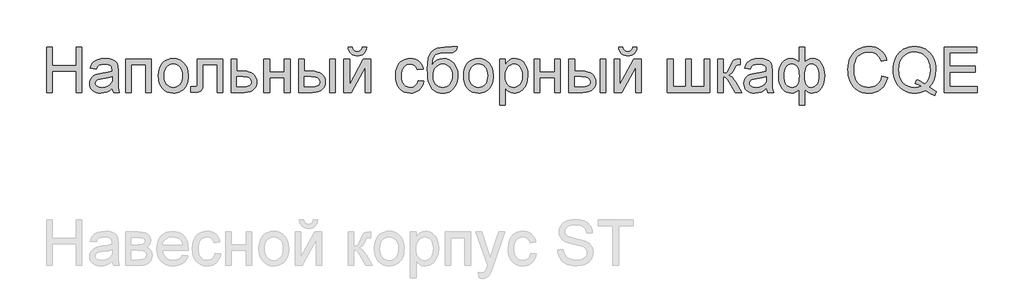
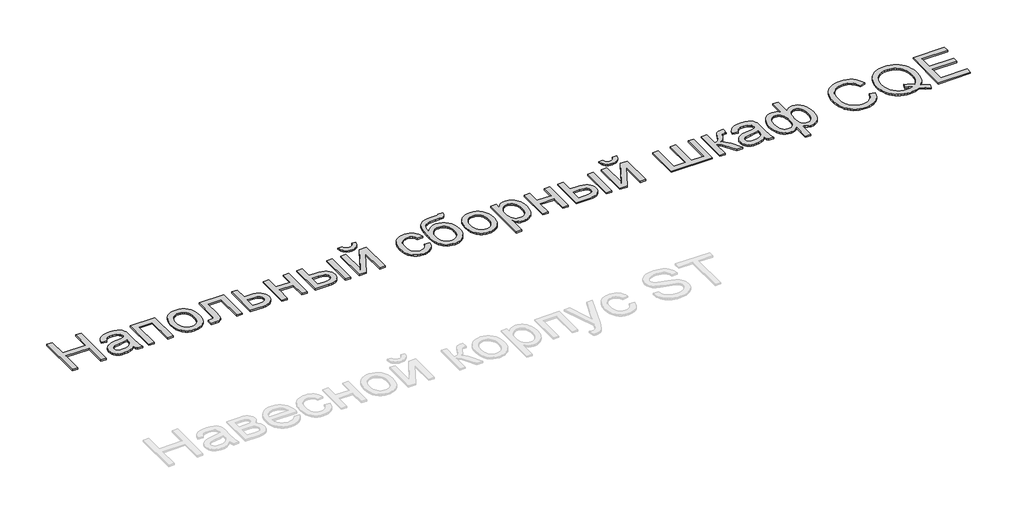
# One storey, part 6 of 6: 1 proxy.
"""IFC4 building model written with IfcOpenShell, lengths in millimetres."""

from ifc_helpers import new_model, si_unit, origin, origin_with_axes, place, context, project, spatial, polyline, outline, extrude, element, save

model = new_model("IFC4")

# Units and contexts
model_context = context("Model", 3, world=origin())
ifc_project = project(units=[si_unit("LENGTHUNIT", "METRE", prefix="MILLI")], contexts=[model_context])

# Site, building, storey
site = spatial("IfcSite", under=ifc_project)
building = spatial("IfcBuilding", under=site)
storey = spatial("IfcBuildingStorey", under=building, Name="Этаж 01", Elevation=0.0)

# Proxy
placement = place(None, origin())
element("IfcBuildingElementProxy", 1, Name="600 мм Arial", ObjectType="600 мм Arial", at=placement, inside=storey, context=model_context, shape_type="SweptSolid", body=[
    extrude(outline(polyline([(180.1086, -3256.8313226), (180.1086, -2654.0934617), (255.4508326, -2654.0934617), (255.4508326, -2898.9557177), (575.6553212, -2898.9557177), (575.6553212, -2654.0934617), (650.9975538, -2654.0934617), (650.9975538, -3256.8313226), (575.6553212, -3256.8313226), (575.6553212, -2974.2979503), (255.4508326, -2974.2979503), (255.4508326, -3256.8313226), (180.1086, -3256.8313226)])), origin_with_axes(), (0.0, 0.0, 1.0), 20.0),
    extrude(outline(polyline([(1055.9620541, -3200.3246482), (1019.9648008, -3231.1899476), (982.9006898, -3251.3866691), (943.9235924, -3262.5334936), (902.1873801, -3266.2491017), (868.6411407, -3264.0142186), (839.2243766, -3257.3095692), (813.937088, -3246.1351536), (792.7792747, -3230.4909718), (776.0728336, -3211.3703051), (764.1396614, -3189.7664349), (756.9797581, -3165.6793613), (754.5931236, -3139.1090842), (758.1983672, -3107.8759028), (769.0140978, -3079.512201), (785.6975463, -3055.2319893), (806.9059433, -3036.2492783), (831.8299485, -3021.9018805), (859.6602214, -3011.5276083), (924.848911, -3000.1968428), (1001.8834008, -2988.2774662), (1055.5205957, -2974.2979503), (1055.9620541, -2957.5225314), (1050.7749179, -2923.898117), (1044.2909978, -2911.4453115), (1035.2135095, -2901.8987737), (1019.5233425, -2892.37063), (1000.4118728, -2885.5648131), (951.9250258, -2880.1201596), (907.0434224, -2883.7437972), (875.6998764, -2894.6147102), (854.3259325, -2914.7194612), (839.3531353, -2946.0446131), (764.0109027, -2936.626834), (777.0891076, -2895.4240506), (796.6052475, -2863.050435), (824.3803381, -2838.2919767), (862.2353954, -2819.9346652), (908.5333445, -2808.5671115), (961.6371105, -2804.777927), (1012.5703727, -2808.1256531), (1052.9454217, -2818.1688316), (1083.3876568, -2833.2703875), (1104.5224774, -2851.793246), (1118.5387815, -2874.6939002), (1127.6254667, -2902.9288433), (1131.3042867, -2968.8532968), (1131.3042867, -3062.5896292), (1135.1302594, -3193.4820431), (1140.7956422, -3225.8372645), (1150.1398448, -3256.8313226), (1074.7976122, -3256.8313226), (1062.7310828, -3230.6381246), (1055.9620541, -3200.3246482)]), holes=[polyline([(1055.9620541, -3049.640183), (1005.3414915, -3062.184959), (934.4138429, -3072.7431723), (869.5930353, -3084.9568545), (852.7256458, -3093.3077758), (840.2360521, -3104.8224822), (832.5105302, -3118.6180571), (829.9353562, -3133.8115835), (835.5455567, -3156.215597), (852.3761579, -3174.5729085), (880.0592781, -3186.823379), (918.2270351, -3190.9068691), (958.6940545, -3186.4003147), (994.4521845, -3172.8806513), (1023.4412857, -3152.9598413), (1043.601219, -3129.2498467), (1052.5407515, -3104.8224822), (1055.5205957, -3070.9773387), (1055.9620541, -3049.640183)])]), origin_with_axes(), (0.0, 0.0, 1.0), 20.0),
    extrude(outline(polyline([(1234.8998565, -2814.195706), (1573.9399033, -2814.195706), (1573.9399033, -3256.8313226), (1498.5976707, -3256.8313226), (1498.5976707, -2889.5379387), (1310.2420891, -2889.5379387), (1310.2420891, -3256.8313226), (1234.8998565, -3256.8313226), (1234.8998565, -2814.195706)])), origin_with_axes(), (0.0, 0.0, 1.0), 20.0),
    extrude(outline(polyline([(1668.117694, -3035.5135143), (1672.1919871, -2978.1883024), (1684.4148664, -2928.7909475), (1704.7863319, -2887.3214496), (1733.3063836, -2853.7798087), (1762.0195733, -2832.3414855), (1793.7126072, -2817.0283974), (1828.3854852, -2807.8405446), (1866.0382075, -2804.777927), (1907.6042744, -2808.5073307), (1945.1880187, -2819.6955419), (1978.7894404, -2838.3425605), (2008.4085396, -2864.4483866), (2032.5829852, -2897.1301033), (2049.8504463, -2935.504794), (2060.210923, -2979.5724585), (2063.6644153, -3029.3330968), (2062.137705, -3069.6621605), (2057.5575741, -3105.4478816), (2049.9240227, -3136.6902601), (2039.2370508, -3163.3892959), (2025.6300155, -3186.4508984), (2009.2362741, -3206.7809772), (1990.0558266, -3224.3795321), (1968.0886729, -3239.2465633), (1944.1901388, -3251.0601738), (1919.2155499, -3259.4984671), (1893.1649061, -3264.5614431), (1866.0382075, -3266.2491017), (1823.8651352, -3262.5334936), (1785.931903, -3251.3866691), (1752.2385108, -3232.8086284), (1722.7849585, -3206.7993713), (1698.8680303, -3173.8003563), (1681.7845102, -3134.2530418), (1671.5343981, -3088.1574279), (1668.117694, -3035.5135143)]), holes=[polyline([(1743.4599267, -3035.3663615), (1745.6396275, -3071.9108392), (1752.1787299, -3103.5532894), (1763.0772341, -3130.2937119), (1778.3351398, -3152.1321068), (1796.8947865, -3169.0960653), (1817.6985133, -3181.2131785), (1840.7463203, -3188.4834465), (1866.0382075, -3190.9068691), (1891.2013359, -3188.4696509), (1914.1571724, -3181.1579962), (1934.9057169, -3168.9719051), (1953.4469695, -3151.9113776), (1968.7048753, -3129.856852), (1979.6033794, -3102.6887667), (1986.1424818, -3070.4071216), (1988.3221826, -3033.0119168), (1986.1286863, -2997.6262674), (1979.5481971, -2966.8115517), (1968.5807151, -2940.5677699), (1953.2262403, -2918.8949219), (1934.6160099, -2901.9309634), (1913.8812609, -2889.8138502), (1891.0219934, -2882.5435822), (1866.0382075, -2880.1201596), (1840.7463203, -2882.5343852), (1817.6985133, -2889.777062), (1796.8947865, -2901.8481899), (1778.3351398, -2918.7477691), (1763.0772341, -2940.5217847), (1752.1787299, -2967.2162219), (1745.6396275, -2998.8310809), (1743.4599267, -3035.3663615)])]), origin_with_axes(), (0.0, 0.0, 1.0), 20.0),
    extrude(outline(polyline([(2186.0955433, -2814.195706), (2525.13559, -2814.195706), (2525.13559, -3256.3898642), (2449.7933574, -3256.3898642), (2449.7933574, -2889.5379387), (2261.4377759, -2889.5379387), (2261.4377759, -3100.7022039), (2260.168583, -3161.9913443), (2256.3610043, -3198.1173562), (2246.8512548, -3220.1718818), (2228.4755491, -3239.2465633), (2200.5900939, -3252.4351328), (2162.5510956, -3256.8313226), (2101.3355316, -3253.0053499), (2101.3355316, -3181.48909), (2135.0335223, -3181.48909), (2155.4693672, -3180.3302617), (2169.0993951, -3176.8537769), (2177.6158633, -3170.8573004), (2182.7110289, -3162.1384971), (2186.0955433, -3096.4347727), (2186.0955433, -2814.195706)])), origin_with_axes(), (0.0, 0.0, 1.0), 20.0),
    extrude(outline(polyline([(2638.1489389, -2814.195706), (2713.4911715, -2814.195706), (2713.4911715, -2974.2979503), (2800.3113224, -2974.2979503), (2840.3920658, -2976.6569936), (2875.5799786, -2983.7341235), (2905.8750609, -2995.52934), (2931.2773127, -3012.0426431), (2951.3636696, -3032.7038156), (2965.7110674, -3056.9426406), (2974.3195061, -3084.7591179), (2977.1889857, -3116.1532477), (2974.7471689, -3144.1628631), (2967.4217187, -3170.0663541), (2955.212635, -3193.8637206), (2938.1199178, -3215.5549628), (2915.6561235, -3233.6133702), (2887.3338084, -3246.5122327), (2853.1529725, -3254.2515502), (2813.1136158, -3256.8313226), (2638.1489389, -3256.8313226), (2638.1489389, -2814.195706)]), holes=[polyline([(2713.4911715, -3181.48909), (2783.830209, -3181.48909), (2838.405503, -3177.5343586), (2858.8367493, -3172.5909443), (2874.6970618, -3165.6701642), (2886.5750517, -3156.6524568), (2895.0593303, -3145.4182604), (2900.1498974, -3131.967575), (2901.8467531, -3116.3004005), (2896.8251638, -3091.689095), (2881.7603961, -3069.9472691), (2868.6683956, -3061.0629189), (2849.4787511, -3054.7169545), (2792.8065297, -3049.640183), (2713.4911715, -3049.640183), (2713.4911715, -3181.48909)])]), origin_with_axes(), (0.0, 0.0, 1.0), 20.0),
    extrude(outline(polyline([(3071.3667764, -2814.195706), (3146.7090091, -2814.195706), (3146.7090091, -2983.7157294), (3344.4823697, -2983.7157294), (3344.4823697, -2814.195706), (3419.8246023, -2814.195706), (3419.8246023, -3256.8313226), (3344.4823697, -3256.8313226), (3344.4823697, -3059.057962), (3146.7090091, -3059.057962), (3146.7090091, -3256.8313226), (3071.3667764, -3256.8313226), (3071.3667764, -2814.195706)])), origin_with_axes(), (0.0, 0.0, 1.0), 20.0),
    extrude(outline(polyline([(3532.8379512, -2814.195706), (3608.1801838, -2814.195706), (3608.1801838, -2974.2979503), (3701.327905, -2974.2979503), (3744.190756, -2976.6569936), (3781.8388796, -2983.7341235), (3814.272276, -2995.52934), (3841.4909452, -3012.0426431), (3863.0258374, -3032.7038156), (3878.4079034, -3056.9426406), (3887.6371429, -3084.7591179), (3890.7135561, -3116.1532477), (3888.1337836, -3144.1628631), (3880.3944661, -3170.0663541), (3867.4956037, -3193.8637206), (3849.4371962, -3215.5549628), (3825.7134061, -3233.6133702), (3795.8183955, -3246.5122327), (3759.7521643, -3254.2515502), (3717.5147128, -3256.8313226), (3532.8379512, -3256.8313226), (3532.8379512, -2814.195706)]), holes=[polyline([(3608.1801838, -3181.48909), (3685.5825556, -3181.48909), (3745.584109, -3177.5343586), (3768.0525019, -3172.5909443), (3785.4993055, -3165.6701642), (3798.5683134, -3156.6524568), (3807.903319, -3145.4182604), (3813.5043224, -3131.967575), (3815.3713235, -3116.3004005), (3809.8346995, -3091.689095), (3793.2248274, -3069.9472691), (3778.8084517, -3061.0629189), (3757.7058208, -3054.7169545), (3695.4417931, -3049.640183), (3608.1801838, -3049.640183), (3608.1801838, -3181.48909)])]), origin_with_axes(), (0.0, 0.0, 1.0), 20.0),
    extrude(outline(polyline([(3947.2202306, -2814.195706), (4022.5624632, -2814.195706), (4022.5624632, -3256.8313226), (3947.2202306, -3256.8313226), (3947.2202306, -2814.195706)])), origin_with_axes(), (0.0, 0.0, 1.0), 20.0),
    extrude(outline(polyline([(4380.4380681, -2654.0934617), (4436.9447425, -2654.0934617), (4432.3968014, -2679.8038147), (4424.7862426, -2702.3411854), (4414.1130662, -2721.7055739), (4400.3772722, -2737.8969802), (4383.8547721, -2750.6762811), (4364.8214774, -2759.8043531), (4343.277388, -2765.2811963), (4319.2225041, -2767.1068107), (4293.0936854, -2765.2949918), (4269.7423757, -2759.8595354), (4249.1685752, -2750.8004412), (4231.3722836, -2738.1177094), (4216.6110186, -2721.995281), (4205.1422974, -2702.6170969), (4196.96612, -2679.9831572), (4192.0824866, -2654.0934617), (4248.589161, -2654.0934617), (4256.5354121, -2678.9071023), (4269.7791639, -2696.547044), (4288.3939929, -2707.0868632), (4312.4534754, -2710.6001362), (4339.6031666, -2707.1972277), (4359.2480652, -2696.9885024), (4372.491817, -2679.4589253), (4380.4380681, -2654.0934617)])), origin_with_axes(), (0.0, 0.0, 1.0), 20.0),
    extrude(outline(polyline([(4135.5758121, -2814.195706), (4210.9180447, -2814.195706), (4210.9180447, -3151.7642248), (4396.0362647, -2814.195706), (4493.451417, -2814.195706), (4493.451417, -3256.8313226), (4418.1091844, -3256.8313226), (4418.1091844, -2921.322943), (4234.1681868, -3256.8313226), (4135.5758121, -3256.8313226), (4135.5758121, -2814.195706)])), origin_with_axes(), (0.0, 0.0, 1.0), 20.0),
    extrude(outline(polyline([(5124.4426151, -3096.7290783), (5199.7848477, -3106.1468574), (5191.5902763, -3141.6980537), (5178.7787858, -3173.1565628), (5161.3503763, -3200.5223848), (5139.3050477, -3223.7955195), (5113.5717022, -3242.3689617), (5085.0792416, -3255.6357062), (5053.8276662, -3263.5957528), (5019.8169757, -3266.2491017), (4977.56113, -3262.5472891), (4939.6738831, -3251.4418514), (4906.1552348, -3232.9327885), (4877.0051852, -3207.0201005), (4853.4101537, -3174.191231), (4836.5565598, -3134.9336235), (4826.4444035, -3089.2472783), (4823.0736847, -3037.1321951), (4828.8310379, -2970.0857015), (4836.0277294, -2939.9147794), (4846.1030976, -2911.9787404), (4859.1261202, -2886.8386045), (4875.1657752, -2865.0553919), (4894.2220625, -2846.6291024), (4916.2949823, -2831.5597362), (4940.3866544, -2819.8426947), (4965.4991991, -2811.4733793), (4991.6326163, -2806.45179), (5018.7869061, -2804.777927), (5052.2135839, -2807.0771894), (5082.4488854, -2813.9749768), (5109.4928106, -2825.4712892), (5133.3453594, -2841.5661265), (5153.6018618, -2861.8916067), (5169.8576474, -2886.0798479), (5182.1127164, -2914.13085), (5190.3670687, -2946.0446131), (5115.0248361, -2955.4623922), (5101.3580199, -2922.5921359), (5080.0760465, -2899.0292941), (5052.3561382, -2884.8474432), (5019.3755173, -2880.1201596), (4993.775529, -2882.4470132), (4970.6863352, -2889.4275741), (4950.1079361, -2901.0618422), (4932.0403317, -2917.3498175), (4917.3296504, -2938.6685791), (4906.8220209, -2965.3952061), (4900.5174432, -2997.5296983), (4898.4159173, -3035.072056), (4900.4714579, -3073.1800321), (4906.6380799, -3105.6870049), (4916.9157831, -3132.5929743), (4931.3045677, -3153.8979404), (4949.0134872, -3170.0893467), (4969.2515955, -3181.6546369), (4992.0188924, -3188.5938111), (5017.3153781, -3190.9068691), (5056.3292637, -3185.1311218), (5073.2012517, -3177.9114376), (5088.3166032, -3167.8038798), (5101.2522539, -3154.6980837), (5111.5851394, -3138.4836848), (5119.3152598, -3119.160683), (5124.4426151, -3096.7290783)])), origin_with_axes(), (0.0, 0.0, 1.0), 20.0),
    extrude(outline(polyline([(5576.4960108, -2644.6756827), (5642.4204643, -2644.6756827), (5635.2835536, -2680.4889949), (5622.996295, -2703.4632255), (5605.9633586, -2717.0564652), (5584.5894147, -2724.7268048), (5549.7509898, -2728.258472), (5492.3246103, -2729.4356944), (5415.7131848, -2733.7767019), (5388.2645894, -2739.2029613), (5368.0540723, -2746.7997245), (5352.6306197, -2756.7877207), (5339.5432177, -2769.387679), (5328.7918664, -2784.5995995), (5320.3765658, -2802.4234822), (5309.1009826, -2846.1646514), (5304.2633344, -2900.8687041), (5334.5584167, -2858.7830039), (5369.5256003, -2828.7638331), (5388.7704272, -2818.2699991), (5409.2016735, -2810.7744035), (5453.6234244, -2804.777927), (5494.669858, -2808.5901041), (5532.0190776, -2820.0266357), (5565.6710831, -2839.0875215), (5595.6258746, -2865.7727618), (5620.2187859, -2898.9603163), (5637.7851512, -2937.5281449), (5648.3249704, -2981.4762478), (5651.8382434, -3030.8046248), (5650.0954025, -3068.5401205), (5644.8668796, -3102.7255549), (5636.1526748, -3133.360928), (5623.9527882, -3160.4462399), (5593.4737649, -3205.3094492), (5557.8076054, -3238.6579521), (5536.9486963, -3250.72908), (5512.6316964, -3259.3513143), (5484.8566058, -3264.5246549), (5453.6234244, -3266.2491017), (5417.492814, -3264.0280142), (5385.6204376, -3257.3647515), (5358.0062953, -3246.2593138), (5334.6503872, -3230.711701), (5314.6605993, -3211.7013989), (5297.1448178, -3190.2078933), (5282.1030427, -3166.2311843), (5269.535274, -3139.7712718), (5259.6208543, -3106.9332052), (5252.5391259, -3063.8220339), (5248.2900888, -3010.4377578), (5246.8737431, -2946.7803771), (5250.446797, -2867.4512234), (5261.1659586, -2802.2211471), (5279.031228, -2751.0901483), (5290.6436531, -2730.8118029), (5304.0426052, -2714.058227), (5336.4668045, -2687.8236422), (5376.5705405, -2669.084653), (5424.3538132, -2657.8412596), (5479.8166225, -2654.0934617), (5563.6937174, -2652.4012046), (5571.8974859, -2649.6236955), (5576.4960108, -2644.6756827)]), holes=[polyline([(5576.4960108, -3028.45018), (5574.4542657, -2997.3319618), (5568.3290305, -2969.1659965), (5558.1203051, -2943.9522843), (5543.8280896, -2921.690825), (5525.820266, -2903.5036589), (5504.4647161, -2890.5128259), (5479.7614402, -2882.7183262), (5451.710438, -2880.1201596), (5422.4362283, -2882.865479), (5396.7120798, -2891.1014371), (5374.5379925, -2904.8280341), (5355.9139665, -2924.0452698), (5341.1710955, -2947.8518334), (5330.6404734, -2975.346414), (5324.3221002, -3006.5290116), (5322.2159757, -3041.3996263), (5324.5428294, -3075.5436739), (5331.5233902, -3105.4294875), (5343.1576583, -3131.057067), (5359.4456337, -3152.4264124), (5379.1457145, -3169.2616122), (5401.0162991, -3181.2867549), (5425.0573875, -3188.5018406), (5451.2689796, -3190.9068691), (5477.8392567, -3188.1247615), (5501.7791776, -3179.7784388), (5523.0887422, -3165.8679008), (5541.7679505, -3146.3931477), (5556.9614769, -3122.3290667), (5567.8139957, -3094.6505451), (5574.325507, -3063.3575829), (5576.4960108, -3028.45018)])]), origin_with_axes(), (0.0, 0.0, 1.0), 20.0),
    extrude(outline(polyline([(5727.180476, -3035.5135143), (5731.2547691, -2978.1883024), (5743.4776484, -2928.7909475), (5763.8491139, -2887.3214496), (5792.3691656, -2853.7798087), (5821.0823553, -2832.3414855), (5852.7753892, -2817.0283974), (5887.4482672, -2807.8405446), (5925.1009894, -2804.777927), (5966.6670564, -2808.5073307), (6004.2508007, -2819.6955419), (6037.8522224, -2838.3425605), (6067.4713216, -2864.4483866), (6091.6457672, -2897.1301033), (6108.9132283, -2935.504794), (6119.273705, -2979.5724585), (6122.7271972, -3029.3330968), (6121.200487, -3069.6621605), (6116.6203561, -3105.4478816), (6108.9868047, -3136.6902601), (6098.2998328, -3163.3892959), (6084.6927975, -3186.4508984), (6068.2990561, -3206.7809772), (6049.1186085, -3224.3795321), (6027.1514549, -3239.2465633), (6003.2529208, -3251.0601738), (5978.2783318, -3259.4984671), (5952.2276881, -3264.5614431), (5925.1009894, -3266.2491017), (5882.9279172, -3262.5334936), (5844.994685, -3251.3866691), (5811.3012928, -3232.8086284), (5781.8477405, -3206.7993713), (5757.9308123, -3173.8003563), (5740.8472921, -3134.2530418), (5730.5971801, -3088.1574279), (5727.180476, -3035.5135143)]), holes=[polyline([(5802.5227086, -3035.3663615), (5804.7024095, -3071.9108392), (5811.2415119, -3103.5532894), (5822.140016, -3130.2937119), (5837.3979218, -3152.1321068), (5855.9575684, -3169.0960653), (5876.7612953, -3181.2131785), (5899.8091023, -3188.4834465), (5925.1009894, -3190.9068691), (5950.2641179, -3188.4696509), (5973.2199544, -3181.1579962), (5993.9684989, -3168.9719051), (6012.5097515, -3151.9113776), (6027.7676572, -3129.856852), (6038.6661613, -3102.6887667), (6045.2052638, -3070.4071216), (6047.3849646, -3033.0119168), (6045.1914682, -2997.6262674), (6038.610979, -2966.8115517), (6027.6434971, -2940.5677699), (6012.2890223, -2918.8949219), (5993.6787919, -2901.9309634), (5972.9440429, -2889.8138502), (5950.0847754, -2882.5435822), (5925.1009894, -2880.1201596), (5899.8091023, -2882.5343852), (5876.7612953, -2889.777062), (5855.9575684, -2901.8481899), (5837.3979218, -2918.7477691), (5822.140016, -2940.5217847), (5811.2415119, -2967.2162219), (5804.7024095, -2998.8310809), (5802.5227086, -3035.3663615)])]), origin_with_axes(), (0.0, 0.0, 1.0), 20.0),
    extrude(outline(polyline([(6207.4872089, -3426.351346), (6207.4872089, -2814.195706), (6282.8294415, -2814.195706), (6282.8294415, -2888.0664107), (6307.4039588, -2851.6276991), (6334.9215321, -2825.6000479), (6367.000842, -2809.9834572), (6405.2605695, -2804.777927), (6431.536541, -2806.5989428), (6456.2122259, -2812.0619905), (6479.287624, -2821.1670699), (6500.7627355, -2833.914181), (6520.1685107, -2849.9722301), (6537.0359002, -2869.0101233), (6551.3649039, -2891.0278607), (6563.1555219, -2916.0254423), (6578.9376595, -2971.5388354), (6584.198372, -3032.129), (6578.2570778, -3096.5635314), (6570.83046, -3126.2286158), (6560.4331951, -3154.192246), (6547.2078374, -3179.7232565), (6531.2969411, -3202.0904818), (6512.7005062, -3221.2939219), (6491.4185328, -3237.3335769), (6468.494886, -3249.984119), (6444.9734309, -3259.0202205), (6420.8541676, -3264.4418814), (6396.1370961, -3266.2491017), (6361.5010062, -3261.4114535), (6330.5805245, -3246.8985088), (6304.111415, -3224.991136), (6282.8294415, -3197.9702034), (6282.8294415, -3426.351346), (6207.4872089, -3426.351346)]), holes=[polyline([(6282.8294415, -3039.0451815), (6284.8665881, -3075.3551344), (6290.9780277, -3106.5883158), (6301.1637605, -3132.7447257), (6315.4237863, -3153.824364), (6332.5900799, -3170.04796), (6351.4946159, -3181.6362428), (6372.1373944, -3188.5892125), (6394.5184153, -3190.9068691), (6417.2213329, -3188.5064391), (6438.2411904, -3181.305149), (6457.5779878, -3169.3029989), (6475.231725, -3152.4999888), (6489.9424063, -3130.6569953), (6500.4500358, -3103.5348953), (6506.7546135, -3071.1336885), (6508.8561394, -3033.4533752), (6506.8051973, -2997.4561219), (6500.6523709, -2966.2781229), (6490.3976603, -2939.9193779), (6476.0410654, -2918.3798871), (6458.8333851, -2901.6412563), (6440.0254181, -2889.6850915), (6419.6171644, -2882.5113926), (6397.608624, -2880.1201596), (6375.6690616, -2882.6631439), (6355.0262831, -2890.2920967), (6335.6802887, -2903.0070182), (6317.6310783, -2920.8079082), (6302.4053622, -2943.4556436), (6291.5298507, -2970.7111009), (6285.0045438, -3002.5742802), (6282.8294415, -3039.0451815)])]), origin_with_axes(), (0.0, 0.0, 1.0), 20.0),
    extrude(outline(polyline([(6668.9583837, -2814.195706), (6744.3006163, -2814.195706), (6744.3006163, -2983.7157294), (6942.0739769, -2983.7157294), (6942.0739769, -2814.195706), (7017.4162095, -2814.195706), (7017.4162095, -3256.8313226), (6942.0739769, -3256.8313226), (6942.0739769, -3059.057962), (6744.3006163, -3059.057962), (6744.3006163, -3256.8313226), (6668.9583837, -3256.8313226), (6668.9583837, -2814.195706)])), origin_with_axes(), (0.0, 0.0, 1.0), 20.0),
    extrude(outline(polyline([(7130.4295584, -2814.195706), (7205.771791, -2814.195706), (7205.771791, -2974.2979503), (7298.9195122, -2974.2979503), (7341.7823632, -2976.6569936), (7379.4304869, -2983.7341235), (7411.8638833, -2995.52934), (7439.0825524, -3012.0426431), (7460.6174447, -3032.7038156), (7475.9995106, -3056.9426406), (7485.2287502, -3084.7591179), (7488.3051633, -3116.1532477), (7485.7253908, -3144.1628631), (7477.9860734, -3170.0663541), (7465.0872109, -3193.8637206), (7447.0288035, -3215.5549628), (7423.3050133, -3233.6133702), (7393.4100027, -3246.5122327), (7357.3437716, -3254.2515502), (7315.10632, -3256.8313226), (7130.4295584, -3256.8313226), (7130.4295584, -2814.195706)]), holes=[polyline([(7205.771791, -3181.48909), (7283.1741628, -3181.48909), (7343.1757162, -3177.5343586), (7365.6441091, -3172.5909443), (7383.0909127, -3165.6701642), (7396.1599206, -3156.6524568), (7405.4949262, -3145.4182604), (7411.0959296, -3131.967575), (7412.9629307, -3116.3004005), (7407.4263067, -3091.689095), (7390.8164346, -3069.9472691), (7376.4000589, -3061.0629189), (7355.297428, -3054.7169545), (7293.0334003, -3049.640183), (7205.771791, -3049.640183), (7205.771791, -3181.48909)])]), origin_with_axes(), (0.0, 0.0, 1.0), 20.0),
    extrude(outline(polyline([(7544.8118378, -2814.195706), (7620.1540704, -2814.195706), (7620.1540704, -3256.8313226), (7544.8118378, -3256.8313226), (7544.8118378, -2814.195706)])), origin_with_axes(), (0.0, 0.0, 1.0), 20.0),
    extrude(outline(polyline([(7978.0296753, -2654.0934617), (8034.5363498, -2654.0934617), (8029.9884086, -2679.8038147), (8022.3778498, -2702.3411854), (8011.7046735, -2721.7055739), (7997.9688795, -2737.8969802), (7981.4463793, -2750.6762811), (7962.4130846, -2759.8043531), (7940.8689953, -2765.2811963), (7916.8141113, -2767.1068107), (7890.6852926, -2765.2949918), (7867.333983, -2759.8595354), (7846.7601824, -2750.8004412), (7828.9638909, -2738.1177094), (7814.2026258, -2721.995281), (7802.7339046, -2702.6170969), (7794.5577273, -2679.9831572), (7789.6740938, -2654.0934617), (7846.1807682, -2654.0934617), (7854.1270193, -2678.9071023), (7867.3707712, -2696.547044), (7885.9856001, -2707.0868632), (7910.0450826, -2710.6001362), (7937.1947739, -2707.1972277), (7956.8396724, -2696.9885024), (7970.0834242, -2679.4589253), (7978.0296753, -2654.0934617)])), origin_with_axes(), (0.0, 0.0, 1.0), 20.0),
    extrude(outline(polyline([(7733.1674193, -2814.195706), (7808.5096519, -2814.195706), (7808.5096519, -3151.7642248), (7993.6278719, -2814.195706), (8091.0430242, -2814.195706), (8091.0430242, -3256.8313226), (8015.7007916, -3256.8313226), (8015.7007916, -2921.322943), (7831.759794, -3256.8313226), (7733.1674193, -3256.8313226), (7733.1674193, -2814.195706)])), origin_with_axes(), (0.0, 0.0, 1.0), 20.0),
    extrude(outline(polyline([(8439.5008501, -2814.195706), (8514.8430827, -2814.195706), (8514.8430827, -3181.48909), (8684.3631061, -3181.48909), (8684.3631061, -2814.195706), (8759.7053387, -2814.195706), (8759.7053387, -3181.48909), (8929.225362, -3181.48909), (8929.225362, -2814.195706), (9004.5675947, -2814.195706), (9004.5675947, -3256.8313226), (8439.5008501, -3256.8313226), (8439.5008501, -2814.195706)])), origin_with_axes(), (0.0, 0.0, 1.0), 20.0),
    extrude(outline(polyline([(9108.1631645, -2814.195706), (9183.5053971, -2814.195706), (9183.5053971, -3002.5512876), (9214.1499673, -2999.1667732), (9233.9788069, -2989.0132302), (9251.526778, -2962.5257265), (9275.3287431, -2910.1393304), (9294.5137892, -2867.299472), (9309.6889215, -2842.0811613), (9323.8523783, -2828.3407688), (9340.0023979, -2819.9346652), (9362.3512291, -2815.6304458), (9395.1111207, -2814.195706), (9409.532095, -2814.195706), (9409.532095, -2889.9793971), (9389.2250088, -2889.5379387), (9365.6805611, -2891.5245014), (9352.4368093, -2897.4841898), (9341.694655, -2914.0756677), (9326.5379168, -2947.0746827), (9310.6270205, -2980.12888), (9296.150864, -3000.7118776), (9278.621287, -3014.4522701), (9253.550129, -3026.9786521), (9277.4256705, -3037.5828506), (9301.0804828, -3056.2988471), (9324.5145659, -3083.1266416), (9347.7279198, -3118.0662341), (9428.3676531, -3256.8313226), (9342.7247246, -3256.8313226), (9263.7036721, -3121.00929), (9242.3665163, -3084.864884), (9223.9724166, -3063.5461224), (9205.3943758, -3053.1166678), (9183.5053971, -3049.640183), (9183.5053971, -3256.8313226), (9108.1631645, -3256.8313226), (9108.1631645, -2814.195706)])), origin_with_axes(), (0.0, 0.0, 1.0), 20.0),
    extrude(outline(polyline([(9757.9899208, -3200.3246482), (9721.9926676, -3231.1899476), (9684.9285565, -3251.3866691), (9645.9514592, -3262.5334936), (9604.2152468, -3266.2491017), (9570.6690074, -3264.0142186), (9541.2522433, -3257.3095692), (9515.9649547, -3246.1351536), (9494.8071414, -3230.4909718), (9478.1007003, -3211.3703051), (9466.1675281, -3189.7664349), (9459.0076248, -3165.6793613), (9456.6209903, -3139.1090842), (9460.2262339, -3107.8759028), (9471.0419645, -3079.512201), (9487.725413, -3055.2319893), (9508.93381, -3036.2492783), (9533.8578152, -3021.9018805), (9561.6880882, -3011.5276083), (9626.8767777, -3000.1968428), (9703.9112675, -2988.2774662), (9757.5484624, -2974.2979503), (9757.9899208, -2957.5225314), (9752.8027847, -2923.898117), (9746.3188645, -2911.4453115), (9737.2413763, -2901.8987737), (9721.5512092, -2892.37063), (9702.4397395, -2885.5648131), (9653.9528925, -2880.1201596), (9609.0712891, -2883.7437972), (9577.7277431, -2894.6147102), (9556.3537992, -2914.7194612), (9541.381002, -2946.0446131), (9466.0387694, -2936.626834), (9479.1169743, -2895.4240506), (9498.6331142, -2863.050435), (9526.4082048, -2838.2919767), (9564.2632621, -2819.9346652), (9610.5612112, -2808.5671115), (9663.6649772, -2804.777927), (9714.5982395, -2808.1256531), (9754.9732884, -2818.1688316), (9785.4155235, -2833.2703875), (9806.5503441, -2851.793246), (9820.5666482, -2874.6939002), (9829.6533334, -2902.9288433), (9833.3321534, -2968.8532968), (9833.3321534, -3062.5896292), (9837.1581261, -3193.4820431), (9842.8235089, -3225.8372645), (9852.1677115, -3256.8313226), (9776.8254789, -3256.8313226), (9764.7589495, -3230.6381246), (9757.9899208, -3200.3246482)]), holes=[polyline([(9757.9899208, -3049.640183), (9707.3693582, -3062.184959), (9636.4417096, -3072.7431723), (9571.620902, -3084.9568545), (9554.7535125, -3093.3077758), (9542.2639188, -3104.8224822), (9534.5383969, -3118.6180571), (9531.9632229, -3133.8115835), (9537.5734234, -3156.215597), (9554.4040247, -3174.5729085), (9582.0871448, -3186.823379), (9620.2549018, -3190.9068691), (9660.7219213, -3186.4003147), (9696.4800512, -3172.8806513), (9725.4691524, -3152.9598413), (9745.6290857, -3129.2498467), (9754.5686182, -3104.8224822), (9757.5484624, -3070.9773387), (9757.9899208, -3049.640183)])]), origin_with_axes(), (0.0, 0.0, 1.0), 20.0),
    extrude(outline(polyline([(10191.2077583, -2654.0934617), (10266.5499909, -2654.0934617), (10266.5499909, -2856.7228647), (10289.4138569, -2833.8589987), (10314.4482267, -2817.6537968), (10341.5427356, -2807.9968944), (10370.5870192, -2804.777927), (10405.4668308, -2808.8706142), (10436.5298668, -2821.1486758), (10463.7761271, -2841.6121117), (10487.2056116, -2870.2609221), (10506.0365712, -2905.1177412), (10519.4872567, -2944.2052031), (10527.557668, -2987.5233081), (10530.2478051, -3035.072056), (10527.3507343, -3084.3820389), (10518.6595222, -3128.7164178), (10504.1741686, -3168.0751928), (10483.8946737, -3202.4583638), (10459.3109593, -3230.3668116), (10431.9129477, -3250.3014172), (10401.7006389, -3262.2621806), (10368.6740328, -3266.2491017), (10345.8285609, -3264.4096917), (10322.615207, -3258.8914618), (10296.9002555, -3245.1694634), (10266.5499909, -3218.7187479), (10266.5499909, -3426.351346), (10191.2077583, -3426.351346), (10191.2077583, -3218.7187479), (10168.28871, -3239.4672925), (10143.0887933, -3254.3297251), (10115.6815847, -3263.2692576), (10086.1406605, -3266.2491017), (10053.5095275, -3262.4415231), (10023.0121101, -3251.0187871), (9994.6484083, -3231.9808939), (9968.418422, -3205.3278433), (9946.4006846, -3171.5838673), (9930.6737293, -3131.2731977), (9921.2375561, -3084.3958345), (9918.0921651, -3030.9517776), (9920.938652, -2984.8469666), (9929.4781128, -2942.6233106), (9943.7105475, -2904.2808096), (9963.6359561, -2869.8194637), (9988.3714217, -2841.3637914), (10017.0340277, -2821.0383112), (10049.6237739, -2808.843023), (10086.1406605, -2804.777927), (10116.840413, -2807.9968944), (10144.4867449, -2817.6537968), (10169.2268091, -2833.8589987), (10191.2077583, -2856.7228647), (10191.2077583, -2654.0934617)]), holes=[polyline([(10266.1085325, -3036.8378895), (10267.6766295, -3078.7166562), (10272.3809205, -3113.1182212), (10280.2214056, -3140.0425847), (10291.1980846, -3159.4897467), (10304.5384054, -3173.2347378), (10319.4698159, -3183.0525885), (10335.992316, -3188.943299), (10354.1059058, -3190.9068691), (10374.2336494, -3188.4926435), (10392.8254858, -3181.2499667), (10409.8814148, -3169.1788388), (10425.4014364, -3152.2792596), (10438.3094959, -3130.2937119), (10447.5295384, -3102.9646782), (10453.0615639, -3070.2921585), (10454.9055724, -3032.2761528), (10453.2041182, -2996.3156878), (10448.0997555, -2965.2480533), (10439.5924844, -2939.0732493), (10427.6823048, -2917.7912759), (10413.1049807, -2901.3101625), (10396.5962762, -2889.5379387), (10378.1561912, -2882.4746044), (10357.7847257, -2880.1201596), (10336.3877892, -2882.5711734), (10317.8143469, -2889.9242148), (10302.064399, -2902.1792837), (10289.1379454, -2919.3363803), (10279.0625773, -2941.3863074), (10271.8658857, -2968.3198679), (10267.5478708, -3000.137062), (10266.1085325, -3036.8378895)]), polyline([(9993.4343977, -3029.3330968), (9995.3197929, -3069.2942786), (10000.9759786, -3103.2405897), (10010.4029547, -3131.1720301), (10023.6007213, -3153.0886), (10039.594391, -3169.6340927), (10057.4090767, -3181.4523018), (10077.0447781, -3188.5432273), (10098.5014955, -3190.9068691), (10120.4226639, -3188.5570229), (10139.3915793, -3181.5074841), (10155.4082416, -3169.7582529), (10168.472651, -3153.3093292), (10178.6123985, -3132.160713), (10185.8550753, -3106.3124043), (10190.2006813, -3075.7644031), (10191.6492167, -3040.5167095), (10190.1271049, -3002.9237681), (10185.5607697, -2970.3432189), (10177.9502109, -2942.7750619), (10167.2954286, -2920.2192971), (10153.5688317, -2902.6759244), (10136.7428289, -2890.144944), (10116.8174204, -2882.6263557), (10093.792606, -2880.1201596), (10072.6026031, -2882.5665748), (10053.4727393, -2889.9058207), (10036.4030147, -2902.137897), (10021.3934293, -2919.2628039), (10009.161353, -2940.8206888), (10000.4241556, -2966.3516993), (9995.1818372, -2995.8558353), (9993.4343977, -3029.3330968)])]), origin_with_axes(), (0.0, 0.0, 1.0), 20.0),
    extrude(outline(polyline([(11293.0879103, -3042.5768487), (11368.4301429, -3062.001018), (11353.521725, -3108.8553886), (11333.6652943, -3149.7960561), (11308.8608508, -3184.8230206), (11279.1083944, -3213.936282), (11245.0793099, -3236.8231406), (11207.4449818, -3253.1708968), (11166.2054101, -3262.9795505), (11121.3605949, -3266.2491017), (11075.4167322, -3263.7750953), (11033.970227, -3256.353076), (10997.0210791, -3243.983044), (10964.5692886, -3226.664999), (10936.1687985, -3204.6564587), (10911.3735521, -3178.2149403), (10890.1835491, -3147.3404438), (10872.5987898, -3112.0329693), (10858.7894194, -3073.8192271), (10848.9255834, -3034.2259274), (10843.0072818, -2993.2530701), (10841.0345146, -2950.9006555), (10843.2647992, -2905.458032), (10849.955653, -2863.0136468), (10861.1070759, -2823.5674999), (10876.7190681, -2787.1195912), (10896.4421416, -2754.2723276), (10919.9268084, -2725.6281157), (10947.1730687, -2701.1869557), (10978.1809224, -2680.9488474), (11011.8973072, -2665.0793378), (11047.2691611, -2653.7439738), (11084.2964839, -2646.9427555), (11122.9792757, -2644.6756827), (11166.0720529, -2647.6095416), (11205.5871777, -2656.4111183), (11241.5246501, -2671.0804129), (11273.8844701, -2691.6174253), (11302.1332088, -2717.4795295), (11325.7374373, -2748.1240997), (11344.6971557, -2783.5511358), (11359.0123638, -2823.7606379), (11283.6701312, -2841.7132793), (11271.8059368, -2812.0849831), (11257.5505095, -2786.7701033), (11240.9038492, -2765.7686399), (11221.865956, -2749.0805929), (11200.3264652, -2736.3656714), (11176.1750122, -2727.2835847), (11149.411597, -2721.8343326), (11120.0362197, -2720.0179153), (11086.2370614, -2722.0320692), (11055.3257768, -2728.074531), (11027.3023658, -2738.1453006), (11002.1668285, -2752.2443781), (10980.236463, -2769.7371669), (10961.8285677, -2789.9890708), (10946.9431425, -2813.0000896), (10935.5801873, -2838.7702233), (10921.1776072, -2893.9157344), (10916.3767472, -2950.7535027), (10922.060524, -3020.3567761), (10929.1652451, -3051.6267457), (10939.1118545, -3080.5422706), (10952.0613007, -3106.528535), (10968.1745321, -3129.0107234), (10987.4515487, -3147.9888358), (11009.8923504, -3163.4628723), (11034.4070868, -3175.4696209), (11059.9059076, -3184.0458699), (11086.3888127, -3189.1916193), (11113.8558022, -3190.9068691), (11146.6110954, -3188.5708184), (11176.7452293, -3181.5626664), (11204.258204, -3169.8824131), (11229.1500195, -3153.5300584), (11250.8320646, -3132.5791788), (11268.7157281, -3107.1033506), (11282.80101, -3077.1025739), (11293.0879103, -3042.5768487)])), origin_with_axes(), (0.0, 0.0, 1.0), 20.0),
    extrude(outline(polyline([(11924.8148724, -3184.5792988), (11973.4856603, -3221.7721685), (12018.2568991, -3247.4135436), (11997.949813, -3302.5958428), (11935.814544, -3273.7906826), (11873.9000042, -3232.1096526), (11839.9169049, -3247.0456616), (11804.1863662, -3257.7142394), (11766.7083879, -3264.1153861), (11727.4829702, -3266.2491017), (11688.0184291, -3263.7888909), (11650.4116922, -3256.4082583), (11614.6627593, -3244.1072041), (11580.7716305, -3226.8857282), (11549.7085945, -3205.2082817), (11522.4439401, -3179.5393155), (11498.9776674, -3149.8788296), (11479.3097762, -3116.2268241), (11463.7621634, -3079.4524201), (11452.6567257, -3040.424739), (11445.993463, -2999.1437806), (11443.7723755, -2955.609545), (11445.9888645, -2912.1672799), (11452.6383316, -2870.7207746), (11463.7207767, -2831.2700291), (11479.2361998, -2793.8150435), (11498.8443102, -2759.5330401), (11522.2048169, -2729.6012413), (11549.3177199, -2704.019647), (11580.1830193, -2682.7882574), (11613.8994041, -2666.1140059), (11649.5655636, -2654.2038263), (11687.1814976, -2647.0577186), (11726.7472062, -2644.6756827), (11766.6486071, -2647.1129009), (11804.5358541, -2654.4245555), (11840.4089471, -2666.6106466), (11874.2678862, -2683.6711742), (11905.1653753, -2705.1186945), (11932.1541182, -2730.4657639), (11955.2341148, -2759.7123826), (11974.4053653, -2792.8585503), (11989.470133, -2829.0765328), (12000.2306814, -2867.5385953), (12006.6870104, -2908.2447381), (12008.8391201, -2951.194961), (12003.6151957, -3020.7614463), (11987.9434227, -3082.8967153), (11976.1620019, -3111.1592496), (11961.7134365, -3137.5271916), (11944.5977267, -3162.0005413), (11924.8148724, -3184.5792988)]), holes=[polyline([(11748.2315147, -3084.3682433), (11781.4328648, -3095.1747769), (11811.5807943, -3108.3173612), (11838.6753032, -3123.7959961), (11862.7163916, -3141.6106818), (11893.6828585, -3106.6618922), (11915.8017635, -3063.9140044), (11929.0731065, -3013.3670182), (11933.4968875, -2955.0209338), (11931.933389, -2920.7481274), (11927.2428935, -2888.7102042), (11919.4254011, -2858.907164), (11908.4809118, -2831.339007), (11894.5243886, -2806.3690166), (11877.6707947, -2784.3604762), (11857.9201301, -2765.3133859), (11835.2723947, -2749.2277457), (11810.4449586, -2736.4484449), (11784.1551915, -2727.3203729), (11756.4030935, -2721.8435297), (11727.1886646, -2720.0179153), (11684.2200475, -2723.7105308), (11645.0774032, -2734.7883774), (11609.7607317, -2753.251455), (11578.2700329, -2779.0997637), (11552.3895346, -2812.2781211), (11533.9034643, -2852.731345), (11522.8118221, -2900.4594354), (11519.1146081, -2955.4623922), (11522.7704354, -3009.0306092), (11533.7379174, -3055.9861474), (11552.017054, -3096.3290067), (11577.6078453, -3130.0591871), (11608.8824134, -3156.680048), (11644.2128806, -3175.6949486), (11683.5992467, -3187.103889), (11727.0415118, -3190.9068691), (11768.8696946, -3187.0441082), (11808.1227035, -3175.4558253), (11769.5318822, -3155.4062566), (11728.8073453, -3142.0521401), (11748.2315147, -3084.3682433)])]), origin_with_axes(), (0.0, 0.0, 1.0), 20.0),
    extrude(outline(polyline([(12121.852469, -3256.8313226), (12121.852469, -2654.0934617), (12555.0703065, -2654.0934617), (12555.0703065, -2729.4356944), (12197.1947016, -2729.4356944), (12197.1947016, -2908.3734968), (12536.2347484, -2908.3734968), (12536.2347484, -2983.7157294), (12197.1947016, -2983.7157294), (12197.1947016, -3181.48909), (12564.4880856, -3181.48909), (12564.4880856, -3256.8313226), (12121.852469, -3256.8313226)])), origin_with_axes(), (0.0, 0.0, 1.0), 20.0),
])

save(model, "model.ifc")
